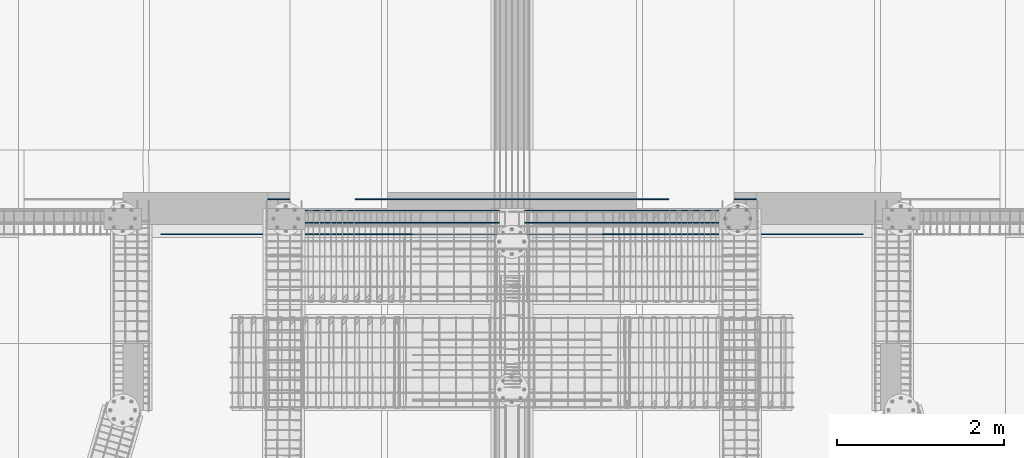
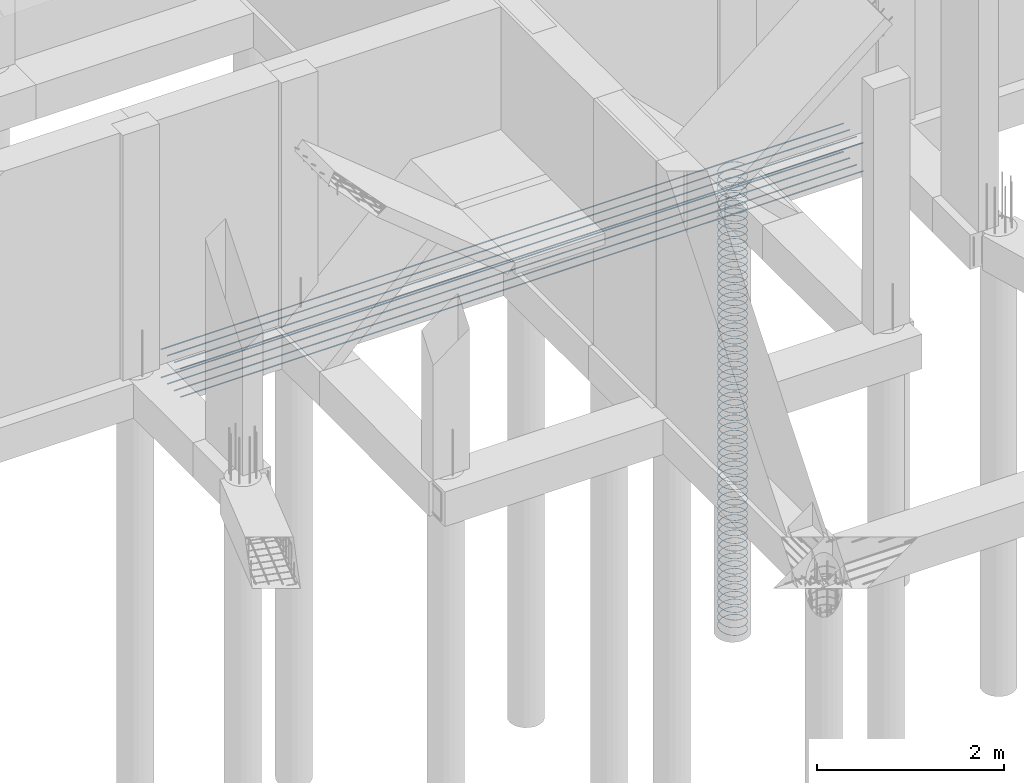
# One storey, part 10 of 13: 3 reinforcing bars.
"""IFC4 building model written with IfcOpenShell, lengths in metres."""

from ifc_helpers import new_model, entity, si_unit, origin_with_axes, place, context, project, spatial, source, transform, mapped, element, save


model = new_model("IFC4")

# Units and contexts
model_context = context("Model", 3, precision=1e-05, world=origin_with_axes())
ifc_project = project(units=[si_unit("LENGTHUNIT", "METRE"), si_unit("AREAUNIT", "SQUARE_METRE"), si_unit("VOLUMEUNIT", "CUBIC_METRE"), si_unit("MASSUNIT", "GRAM", prefix="KILO"), si_unit("TIMEUNIT", "SECOND"), si_unit("PLANEANGLEUNIT", "RADIAN"), si_unit("SOLIDANGLEUNIT", "STERADIAN"), si_unit("THERMODYNAMICTEMPERATUREUNIT", "DEGREE_CELSIUS")], contexts=[model_context])

# Site, building, storey
placement_1 = place(None, origin_with_axes())
site = spatial("IfcSite", under=ifc_project, at=placement_1, Name="Italia", CompositionType="ELEMENT")
building = spatial("IfcBuilding", under=site, at=placement_1, Name="Villa", CompositionType="ELEMENT")
storey = spatial("IfcBuildingStorey", under=building, at=placement_1, Name="Storey 0", CompositionType="ELEMENT", Elevation=0.0)

# Reinforcing bars
shared_shape_1 = source(origin_with_axes(), model_context, "Body", "AdvancedSweptSolid", [
    entity("IfcSweptDiskSolid", entity("IfcIndexedPolyCurve", entity("IfcCartesianPointList3D", [[11.955, 12.175, -5.97], [11.9472, 12.1256, -5.965], [11.9244, 12.081, -5.96], [11.889, 12.0456, -5.955], [11.8444, 12.0228, -5.95], [11.795, 12.015, -5.945], [11.7456, 12.0228, -5.94], [11.701, 12.0456, -5.935], [11.6656, 12.081, -5.93], [11.6428, 12.1256, -5.925], [11.635, 12.175, -5.92], [11.6428, 12.2244, -5.915], [11.6656, 12.269, -5.91], [11.701, 12.3044, -5.905], [11.7456, 12.3272, -5.9], [11.795, 12.335, -5.895], [11.8444, 12.3272, -5.89], [11.889, 12.3044, -5.885], [11.9244, 12.269, -5.88], [11.9472, 12.2244, -5.875], [11.955, 12.175, -5.87]]), [entity("IfcLineIndex", [1, 2]), entity("IfcLineIndex", [2, 3]), entity("IfcLineIndex", [3, 4]), entity("IfcLineIndex", [4, 5]), entity("IfcLineIndex", [5, 6]), entity("IfcLineIndex", [6, 7]), entity("IfcLineIndex", [7, 8]), entity("IfcLineIndex", [8, 9]), entity("IfcLineIndex", [9, 10]), entity("IfcLineIndex", [10, 11]), entity("IfcLineIndex", [11, 12]), entity("IfcLineIndex", [12, 13]), entity("IfcLineIndex", [13, 14]), entity("IfcLineIndex", [14, 15]), entity("IfcLineIndex", [15, 16]), entity("IfcLineIndex", [16, 17]), entity("IfcLineIndex", [17, 18]), entity("IfcLineIndex", [18, 19]), entity("IfcLineIndex", [19, 20]), entity("IfcLineIndex", [20, 21])], False), 0.004),
])
placement_2 = place(placement_1, origin_with_axes())
reinforcing_bar_1_placement = place(placement_2, origin_with_axes())
element("IfcReinforcingBar", 1, at=reinforcing_bar_1_placement, inside=storey, BarLength=1.00616, CrossSectionArea=5.0265e-05, NominalDiameter=0.008, context=model_context, shape_type="MappedRepresentation", body=[
    mapped(shared_shape_1, transform((2.00272e-05, -1.23978e-05, 4.30001), x_axis=(1.0, 0.0, 0.0), y_axis=(0.0, 1.0, 0.0), z_axis=(0.0, 0.0, 1.0), scale=1.0)),
    mapped(shared_shape_1, transform((2.00272e-05, -1.23978e-05, 4.20001), x_axis=(1.0, 0.0, 0.0), y_axis=(0.0, 1.0, 0.0), z_axis=(0.0, 0.0, 1.0), scale=1.0)),
    mapped(shared_shape_1, transform((2.00272e-05, -1.23978e-05, 4.10001), x_axis=(1.0, 0.0, 0.0), y_axis=(0.0, 1.0, 0.0), z_axis=(0.0, 0.0, 1.0), scale=1.0)),
    mapped(shared_shape_1, transform((0.0, 0.0, 3.9), x_axis=(1.0, 0.0, 0.0), y_axis=(0.0, 1.0, 0.0), z_axis=(0.0, 0.0, 1.0), scale=1.0)),
    mapped(shared_shape_1, transform((0.0, 0.0, 3.8), x_axis=(1.0, 0.0, 0.0), y_axis=(0.0, 1.0, 0.0), z_axis=(0.0, 0.0, 1.0), scale=1.0)),
    mapped(shared_shape_1, transform((2.00272e-05, -1.23978e-05, 4.40001), x_axis=(1.0, 0.0, 0.0), y_axis=(0.0, 1.0, 0.0), z_axis=(0.0, 0.0, 1.0), scale=1.0)),
    mapped(shared_shape_1, transform((0.0, 0.0, 3.5), x_axis=(1.0, 0.0, 0.0), y_axis=(0.0, 1.0, 0.0), z_axis=(0.0, 0.0, 1.0), scale=1.0)),
    mapped(shared_shape_1, transform((0.0, 0.0, 3.4), x_axis=(1.0, 0.0, 0.0), y_axis=(0.0, 1.0, 0.0), z_axis=(0.0, 0.0, 1.0), scale=1.0)),
    mapped(shared_shape_1, transform((2.00272e-05, -1.23978e-05, 4.00001), x_axis=(1.0, 0.0, 0.0), y_axis=(0.0, 1.0, 0.0), z_axis=(0.0, 0.0, 1.0), scale=1.0)),
    mapped(shared_shape_1, transform((0.0, 0.0, 3.1), x_axis=(1.0, 0.0, 0.0), y_axis=(0.0, 1.0, 0.0), z_axis=(0.0, 0.0, 1.0), scale=1.0)),
    mapped(shared_shape_1, transform((0.0, 0.0, 3.7), x_axis=(1.0, 0.0, 0.0), y_axis=(0.0, 1.0, 0.0), z_axis=(0.0, 0.0, 1.0), scale=1.0)),
    mapped(shared_shape_1, transform((0.0, 0.0, 3.6), x_axis=(1.0, 0.0, 0.0), y_axis=(0.0, 1.0, 0.0), z_axis=(0.0, 0.0, 1.0), scale=1.0)),
    mapped(shared_shape_1, transform((2.09808e-05, -1.33514e-05, 5.70001), x_axis=(1.0, 0.0, 0.0), y_axis=(0.0, 1.0, 0.0), z_axis=(0.0, 0.0, 1.0), scale=1.0)),
    mapped(shared_shape_1, transform((0.0, 0.0, 3.3), x_axis=(1.0, 0.0, 0.0), y_axis=(0.0, 1.0, 0.0), z_axis=(0.0, 0.0, 1.0), scale=1.0)),
    mapped(shared_shape_1, transform((0.0, 0.0, 3.2), x_axis=(1.0, 0.0, 0.0), y_axis=(0.0, 1.0, 0.0), z_axis=(0.0, 0.0, 1.0), scale=1.0)),
    mapped(shared_shape_1, transform((0.0, 0.0, 3.0), x_axis=(1.0, 0.0, 0.0), y_axis=(0.0, 1.0, 0.0), z_axis=(0.0, 0.0, 1.0), scale=1.0)),
    mapped(shared_shape_1, transform((2.00272e-05, -1.23978e-05, 5.90001), x_axis=(1.0, 0.0, 0.0), y_axis=(0.0, 1.0, 0.0), z_axis=(0.0, 0.0, 1.0), scale=1.0)),
    mapped(shared_shape_1, transform((2.09808e-05, -1.33514e-05, 5.80001), x_axis=(1.0, 0.0, 0.0), y_axis=(0.0, 1.0, 0.0), z_axis=(0.0, 0.0, 1.0), scale=1.0)),
    mapped(shared_shape_1, transform((2.09808e-05, -1.33514e-05, 5.60001), x_axis=(1.0, 0.0, 0.0), y_axis=(0.0, 1.0, 0.0), z_axis=(0.0, 0.0, 1.0), scale=1.0)),
    mapped(shared_shape_1, transform((2.09808e-05, -1.33514e-05, 5.50001), x_axis=(1.0, 0.0, 0.0), y_axis=(0.0, 1.0, 0.0), z_axis=(0.0, 0.0, 1.0), scale=1.0)),
    mapped(shared_shape_1, transform((2.00272e-05, -1.23978e-05, 5.40001), x_axis=(1.0, 0.0, 0.0), y_axis=(0.0, 1.0, 0.0), z_axis=(0.0, 0.0, 1.0), scale=1.0)),
    mapped(shared_shape_1, transform((2.00272e-05, -1.23978e-05, 5.20001), x_axis=(1.0, 0.0, 0.0), y_axis=(0.0, 1.0, 0.0), z_axis=(0.0, 0.0, 1.0), scale=1.0)),
    mapped(shared_shape_1, transform((2.00272e-05, -1.23978e-05, 5.10001), x_axis=(1.0, 0.0, 0.0), y_axis=(0.0, 1.0, 0.0), z_axis=(0.0, 0.0, 1.0), scale=1.0)),
    mapped(shared_shape_1, transform((2.00272e-05, -1.23978e-05, 5.00001), x_axis=(1.0, 0.0, 0.0), y_axis=(0.0, 1.0, 0.0), z_axis=(0.0, 0.0, 1.0), scale=1.0)),
    mapped(shared_shape_1, transform((2.00272e-05, -1.23978e-05, 4.80001), x_axis=(1.0, 0.0, 0.0), y_axis=(0.0, 1.0, 0.0), z_axis=(0.0, 0.0, 1.0), scale=1.0)),
    mapped(shared_shape_1, transform((2.00272e-05, -1.23978e-05, 4.70001), x_axis=(1.0, 0.0, 0.0), y_axis=(0.0, 1.0, 0.0), z_axis=(0.0, 0.0, 1.0), scale=1.0)),
    mapped(shared_shape_1, transform((2.00272e-05, -1.23978e-05, 5.30001), x_axis=(1.0, 0.0, 0.0), y_axis=(0.0, 1.0, 0.0), z_axis=(0.0, 0.0, 1.0), scale=1.0)),
    mapped(shared_shape_1, transform((0.0, 0.0, 1.4), x_axis=(1.0, 0.0, 0.0), y_axis=(0.0, 1.0, 0.0), z_axis=(0.0, 0.0, 1.0), scale=1.0)),
    mapped(shared_shape_1, transform((0.0, 0.0, 1.3), x_axis=(1.0, 0.0, 0.0), y_axis=(0.0, 1.0, 0.0), z_axis=(0.0, 0.0, 1.0), scale=1.0)),
    mapped(shared_shape_1, transform((2.00272e-05, -1.23978e-05, 4.90001), x_axis=(1.0, 0.0, 0.0), y_axis=(0.0, 1.0, 0.0), z_axis=(0.0, 0.0, 1.0), scale=1.0)),
    mapped(shared_shape_1, transform((0.0, 0.0, 0.999999), x_axis=(1.0, 0.0, 0.0), y_axis=(0.0, 1.0, 0.0), z_axis=(0.0, 0.0, 1.0), scale=1.0)),
    mapped(shared_shape_1, transform((2.00272e-05, -1.23978e-05, 4.60001), x_axis=(1.0, 0.0, 0.0), y_axis=(0.0, 1.0, 0.0), z_axis=(0.0, 0.0, 1.0), scale=1.0)),
    mapped(shared_shape_1, transform((2.00272e-05, -1.23978e-05, 4.50001), x_axis=(1.0, 0.0, 0.0), y_axis=(0.0, 1.0, 0.0), z_axis=(0.0, 0.0, 1.0), scale=1.0)),
    mapped(shared_shape_1, transform((0.0, 0.0, 0.599999), x_axis=(1.0, 0.0, 0.0), y_axis=(0.0, 1.0, 0.0), z_axis=(0.0, 0.0, 1.0), scale=1.0)),
    mapped(shared_shape_1, transform((0.0, 0.0, 1.2), x_axis=(1.0, 0.0, 0.0), y_axis=(0.0, 1.0, 0.0), z_axis=(0.0, 0.0, 1.0), scale=1.0)),
    mapped(shared_shape_1, transform((0.0, 0.0, 1.1), x_axis=(1.0, 0.0, 0.0), y_axis=(0.0, 1.0, 0.0), z_axis=(0.0, 0.0, 1.0), scale=1.0)),
    mapped(shared_shape_1, transform((0.0, 0.0, 0.899999), x_axis=(1.0, 0.0, 0.0), y_axis=(0.0, 1.0, 0.0), z_axis=(0.0, 0.0, 1.0), scale=1.0)),
    mapped(shared_shape_1, transform((0.0, 0.0, 0.799999), x_axis=(1.0, 0.0, 0.0), y_axis=(0.0, 1.0, 0.0), z_axis=(0.0, 0.0, 1.0), scale=1.0)),
    mapped(shared_shape_1, transform((0.0, 0.0, 0.699999), x_axis=(1.0, 0.0, 0.0), y_axis=(0.0, 1.0, 0.0), z_axis=(0.0, 0.0, 1.0), scale=1.0)),
    mapped(shared_shape_1, transform((0.0, 0.0, 0.499999), x_axis=(1.0, 0.0, 0.0), y_axis=(0.0, 1.0, 0.0), z_axis=(0.0, 0.0, 1.0), scale=1.0)),
    mapped(shared_shape_1, transform((0.0, 0.0, 0.399999), x_axis=(1.0, 0.0, 0.0), y_axis=(0.0, 1.0, 0.0), z_axis=(0.0, 0.0, 1.0), scale=1.0)),
    mapped(shared_shape_1, transform((0.0, 0.0, 0.299999), x_axis=(1.0, 0.0, 0.0), y_axis=(0.0, 1.0, 0.0), z_axis=(0.0, 0.0, 1.0), scale=1.0)),
    mapped(shared_shape_1, transform((0.0, 0.0, 0.0999994), x_axis=(1.0, 0.0, 0.0), y_axis=(0.0, 1.0, 0.0), z_axis=(0.0, 0.0, 1.0), scale=1.0)),
    mapped(shared_shape_1, transform((0.0, 0.0, 0.0), x_axis=(1.0, 0.0, 0.0), y_axis=(0.0, 1.0, 0.0), z_axis=(0.0, 0.0, 1.0), scale=1.0)),
    mapped(shared_shape_1, transform((0.0, 0.0, 2.9), x_axis=(1.0, 0.0, 0.0), y_axis=(0.0, 1.0, 0.0), z_axis=(0.0, 0.0, 1.0), scale=1.0)),
    mapped(shared_shape_1, transform((0.0, 0.0, 2.7), x_axis=(1.0, 0.0, 0.0), y_axis=(0.0, 1.0, 0.0), z_axis=(0.0, 0.0, 1.0), scale=1.0)),
    mapped(shared_shape_1, transform((0.0, 0.0, 2.6), x_axis=(1.0, 0.0, 0.0), y_axis=(0.0, 1.0, 0.0), z_axis=(0.0, 0.0, 1.0), scale=1.0)),
    mapped(shared_shape_1, transform((0.0, 0.0, 0.199999), x_axis=(1.0, 0.0, 0.0), y_axis=(0.0, 1.0, 0.0), z_axis=(0.0, 0.0, 1.0), scale=1.0)),
    mapped(shared_shape_1, transform((0.0, 0.0, 2.3), x_axis=(1.0, 0.0, 0.0), y_axis=(0.0, 1.0, 0.0), z_axis=(0.0, 0.0, 1.0), scale=1.0)),
    mapped(shared_shape_1, transform((0.0, 0.0, 2.2), x_axis=(1.0, 0.0, 0.0), y_axis=(0.0, 1.0, 0.0), z_axis=(0.0, 0.0, 1.0), scale=1.0)),
    mapped(shared_shape_1, transform((0.0, 0.0, 2.8), x_axis=(1.0, 0.0, 0.0), y_axis=(0.0, 1.0, 0.0), z_axis=(0.0, 0.0, 1.0), scale=1.0)),
    mapped(shared_shape_1, transform((0.0, 0.0, 1.9), x_axis=(1.0, 0.0, 0.0), y_axis=(0.0, 1.0, 0.0), z_axis=(0.0, 0.0, 1.0), scale=1.0)),
    mapped(shared_shape_1, transform((0.0, 0.0, 2.5), x_axis=(1.0, 0.0, 0.0), y_axis=(0.0, 1.0, 0.0), z_axis=(0.0, 0.0, 1.0), scale=1.0)),
    mapped(shared_shape_1, transform((0.0, 0.0, 2.4), x_axis=(1.0, 0.0, 0.0), y_axis=(0.0, 1.0, 0.0), z_axis=(0.0, 0.0, 1.0), scale=1.0)),
    mapped(shared_shape_1, transform((0.0, 0.0, 1.5), x_axis=(1.0, 0.0, 0.0), y_axis=(0.0, 1.0, 0.0), z_axis=(0.0, 0.0, 1.0), scale=1.0)),
    mapped(shared_shape_1, transform((0.0, 0.0, 2.1), x_axis=(1.0, 0.0, 0.0), y_axis=(0.0, 1.0, 0.0), z_axis=(0.0, 0.0, 1.0), scale=1.0)),
    mapped(shared_shape_1, transform((0.0, 0.0, 2.0), x_axis=(1.0, 0.0, 0.0), y_axis=(0.0, 1.0, 0.0), z_axis=(0.0, 0.0, 1.0), scale=1.0)),
    mapped(shared_shape_1, transform((0.0, 0.0, 1.8), x_axis=(1.0, 0.0, 0.0), y_axis=(0.0, 1.0, 0.0), z_axis=(0.0, 0.0, 1.0), scale=1.0)),
    mapped(shared_shape_1, transform((0.0, 0.0, 1.7), x_axis=(1.0, 0.0, 0.0), y_axis=(0.0, 1.0, 0.0), z_axis=(0.0, 0.0, 1.0), scale=1.0)),
    mapped(shared_shape_1, transform((0.0, 0.0, 1.6), x_axis=(1.0, 0.0, 0.0), y_axis=(0.0, 1.0, 0.0), z_axis=(0.0, 0.0, 1.0), scale=1.0)),
])
shared_shape_2 = source(origin_with_axes(), model_context, "Body", "AdvancedSweptSolid", [
    entity("IfcSweptDiskSolid", entity("IfcIndexedPolyCurve", entity("IfcCartesianPointList3D", [[7.21168, 11.991, -0.409], [7.7375, 11.991, -0.409], [10.4425, 11.991, -0.409], [10.9683, 11.991, -0.409]]), [entity("IfcLineIndex", [1, 2]), entity("IfcLineIndex", [2, 3]), entity("IfcLineIndex", [3, 4])], False), 0.008),
])
reinforcing_bar_2_placement = place(placement_2, origin_with_axes())
element("IfcReinforcingBar", 2, at=reinforcing_bar_2_placement, inside=storey, BarLength=3.75663, CrossSectionArea=0.00020106, NominalDiameter=0.016, context=model_context, shape_type="MappedRepresentation", body=[
    mapped(shared_shape_2, transform((0.0, 0.417999, 0.368), x_axis=(1.0, 0.0, 0.0), y_axis=(0.0, 1.0, 0.0), z_axis=(0.0, 0.0, 1.0), scale=1.0)),
    mapped(shared_shape_2, transform((0.0, 0.0, 0.368), x_axis=(1.0, 0.0, 0.0), y_axis=(0.0, 1.0, 0.0), z_axis=(0.0, 0.0, 1.0), scale=1.0)),
    mapped(shared_shape_2, transform((0.0, 0.281333, 0.368), x_axis=(1.0, 0.0, 0.0), y_axis=(0.0, 1.0, 0.0), z_axis=(0.0, 0.0, 1.0), scale=1.0)),
    mapped(shared_shape_2, transform((0.0, 0.136666, 0.368), x_axis=(1.0, 0.0, 0.0), y_axis=(0.0, 1.0, 0.0), z_axis=(0.0, 0.0, 1.0), scale=1.0)),
    mapped(shared_shape_2, transform((0.0, 0.417999, 0.0), x_axis=(1.0, 0.0, 0.0), y_axis=(0.0, 1.0, 0.0), z_axis=(0.0, 0.0, 1.0), scale=1.0)),
    mapped(shared_shape_2, transform((0.0, 0.0, 0.0), x_axis=(1.0, 0.0, 0.0), y_axis=(0.0, 1.0, 0.0), z_axis=(0.0, 0.0, 1.0), scale=1.0)),
    mapped(shared_shape_2, transform((0.0, 0.281333, 0.0), x_axis=(1.0, 0.0, 0.0), y_axis=(0.0, 1.0, 0.0), z_axis=(0.0, 0.0, 1.0), scale=1.0)),
    mapped(shared_shape_2, transform((0.0, 0.136666, 0.0), x_axis=(1.0, 0.0, 0.0), y_axis=(0.0, 1.0, 0.0), z_axis=(0.0, 0.0, 1.0), scale=1.0)),
])
shared_shape_3 = source(origin_with_axes(), model_context, "Body", "AdvancedSweptSolid", [
    entity("IfcSweptDiskSolid", entity("IfcIndexedPolyCurve", entity("IfcCartesianPointList3D", [[9.91668, 11.991, -0.409], [10.4425, 11.991, -0.409], [12.7725, 11.991, -0.409], [13.2983, 11.991, -0.409]]), [entity("IfcLineIndex", [1, 2]), entity("IfcLineIndex", [2, 3]), entity("IfcLineIndex", [3, 4])], False), 0.008),
])
reinforcing_bar_3_placement = place(placement_2, origin_with_axes())
element("IfcReinforcingBar", 3, at=reinforcing_bar_3_placement, inside=storey, BarLength=3.38163, CrossSectionArea=0.00020106, NominalDiameter=0.016, context=model_context, shape_type="MappedRepresentation", body=[
    mapped(shared_shape_3, transform((-5.035, 0.417999, 0.0), x_axis=(1.0, 0.0, 0.0), y_axis=(0.0, 1.0, 0.0), z_axis=(0.0, 0.0, 1.0), scale=1.0)),
    mapped(shared_shape_3, transform((-5.035, 0.0, 0.0), x_axis=(1.0, 0.0, 0.0), y_axis=(0.0, 1.0, 0.0), z_axis=(0.0, 0.0, 1.0), scale=1.0)),
    mapped(shared_shape_3, transform((0.0, 0.136666, 0.368), x_axis=(1.0, 0.0, 0.0), y_axis=(0.0, 1.0, 0.0), z_axis=(0.0, 0.0, 1.0), scale=1.0)),
    mapped(shared_shape_3, transform((-5.035, 0.281333, 0.0), x_axis=(1.0, 0.0, 0.0), y_axis=(0.0, 1.0, 0.0), z_axis=(0.0, 0.0, 1.0), scale=1.0)),
    mapped(shared_shape_3, transform((-5.035, 0.136666, 0.0), x_axis=(1.0, 0.0, 0.0), y_axis=(0.0, 1.0, 0.0), z_axis=(0.0, 0.0, 1.0), scale=1.0)),
    mapped(shared_shape_3, transform((0.0, 0.417999, 0.368), x_axis=(1.0, 0.0, 0.0), y_axis=(0.0, 1.0, 0.0), z_axis=(0.0, 0.0, 1.0), scale=1.0)),
    mapped(shared_shape_3, transform((0.0, 0.417999, 0.0), x_axis=(1.0, 0.0, 0.0), y_axis=(0.0, 1.0, 0.0), z_axis=(0.0, 0.0, 1.0), scale=1.0)),
    mapped(shared_shape_3, transform((0.0, 0.0, 0.0), x_axis=(1.0, 0.0, 0.0), y_axis=(0.0, 1.0, 0.0), z_axis=(0.0, 0.0, 1.0), scale=1.0)),
    mapped(shared_shape_3, transform((0.0, 0.281333, 0.0), x_axis=(1.0, 0.0, 0.0), y_axis=(0.0, 1.0, 0.0), z_axis=(0.0, 0.0, 1.0), scale=1.0)),
    mapped(shared_shape_3, transform((0.0, 0.136666, 0.0), x_axis=(1.0, 0.0, 0.0), y_axis=(0.0, 1.0, 0.0), z_axis=(0.0, 0.0, 1.0), scale=1.0)),
    mapped(shared_shape_3, transform((-5.035, 0.417999, 0.368), x_axis=(1.0, 0.0, 0.0), y_axis=(0.0, 1.0, 0.0), z_axis=(0.0, 0.0, 1.0), scale=1.0)),
    mapped(shared_shape_3, transform((-5.035, 0.0, 0.368), x_axis=(1.0, 0.0, 0.0), y_axis=(0.0, 1.0, 0.0), z_axis=(0.0, 0.0, 1.0), scale=1.0)),
    mapped(shared_shape_3, transform((-5.035, 0.281333, 0.368), x_axis=(1.0, 0.0, 0.0), y_axis=(0.0, 1.0, 0.0), z_axis=(0.0, 0.0, 1.0), scale=1.0)),
    mapped(shared_shape_3, transform((-5.035, 0.136666, 0.368), x_axis=(1.0, 0.0, 0.0), y_axis=(0.0, 1.0, 0.0), z_axis=(0.0, 0.0, 1.0), scale=1.0)),
    mapped(shared_shape_3, transform((0.0, 0.281333, 0.368), x_axis=(1.0, 0.0, 0.0), y_axis=(0.0, 1.0, 0.0), z_axis=(0.0, 0.0, 1.0), scale=1.0)),
    mapped(shared_shape_3, transform((0.0, 0.0, 0.368), x_axis=(1.0, 0.0, 0.0), y_axis=(0.0, 1.0, 0.0), z_axis=(0.0, 0.0, 1.0), scale=1.0)),
])

save(model, "model.ifc")
